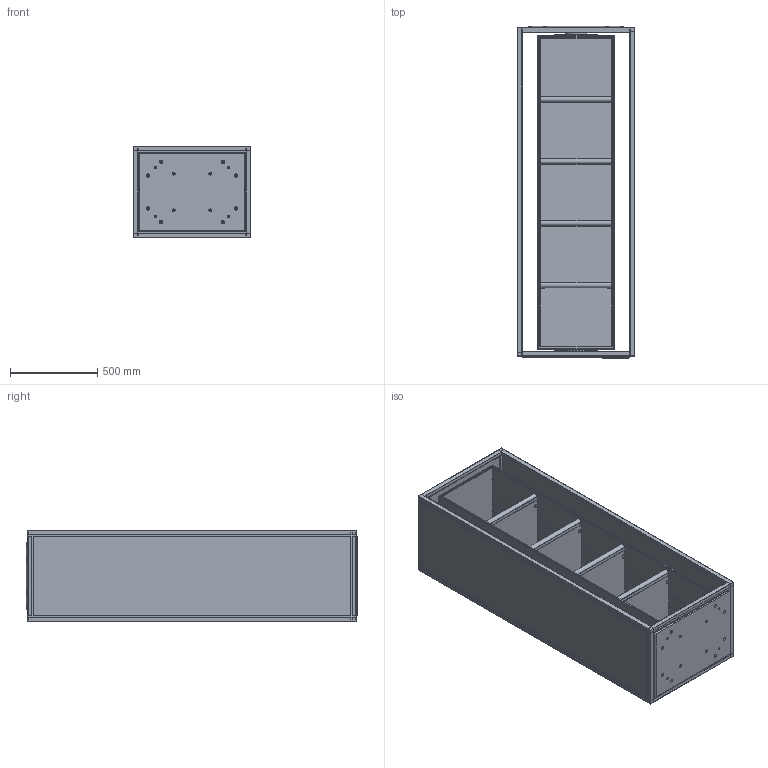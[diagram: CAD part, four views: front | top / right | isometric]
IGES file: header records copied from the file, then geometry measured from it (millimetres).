
Global section: file name: 80063; native system: Autodesk Inventor 2014; preprocessor: unknown; author: Robertom; date: 20140526.112113; units: millimetre
Bounding box: 675 x 1903.5 x 520 mm (x, y, z)
Volume: 98994661.2 mm3; surface area: 16826337.5 mm2
Topology: 52 solids, 68 shells, 2012 faces, 5774 edges, 4046 vertices
Faces by surface type: bspline 2012
